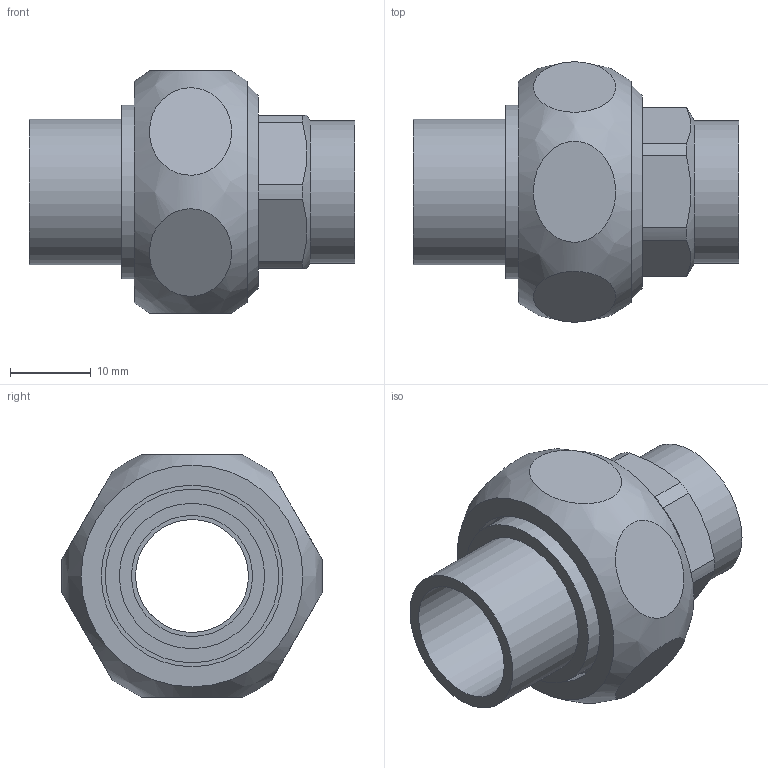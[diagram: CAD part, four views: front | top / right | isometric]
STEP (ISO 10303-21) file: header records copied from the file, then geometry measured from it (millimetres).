
FILE_DESCRIPTION(/* description */ (''),/* implementation_level */ '2;1');
FILE_NAME(/* name */ '\\LG50011\SANHA_Legnica\Engineering\Public\RYSUNKI\SANHA POLSKA\4330\inventor\14330_15(2).stp',/* time_stamp */ '2019-03-12T13:02:01+01:00',/* author */ ('gomulka'),/* organization */ (''),/* preprocessor_version */ 'ST-DEVELOPER v17',/* originating_system */ 'Autodesk Inventor 2019',/* authorisation */ '');
FILE_SCHEMA (('AUTOMOTIVE_DESIGN { 1 0 10303 214 3 1 1 }'));
Length unit declared in the file: millimetre
Products named in the file (5): 14330_15(2); 14374_34(2); 1DCU34; 14370_15-34(2); 14372_15-34(1)
Assembly tree (4 placements, depth 2):
  14330_15(2)
    14374_34(2)
    1DCU34
    14370_15-34(2)
    14372_15-34(1)
Bounding box: 40.37 x 32.23 x 30 mm (x, y, z)
Volume: 10877.4 mm3; surface area: 8921.7 mm2
Topology: 4 solids, 4 shells, 50 faces, 122 edges, 91 vertices
Faces by surface type: plane 26, cylinder 19, cone 4, bspline 1
Full cylindrical faces by diameter (mm): 14 x2, 15 x2, 17 x1, 17.6 x1, 18 x1, 21.5 x1, 22.5 x1, 23 x1, 23.5 x1, 24.117 x1, 26.441 x1
Entity records: 2102 total; most frequent: CARTESIAN_POINT 657, DIRECTION 295, ORIENTED_EDGE 244, AXIS2_PLACEMENT_3D 130, EDGE_CURVE 122, VERTEX_POINT 91, CIRCLE 72, EDGE_LOOP 69
